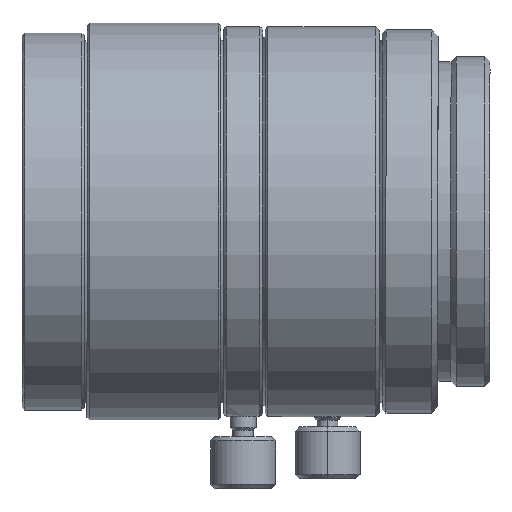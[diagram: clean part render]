
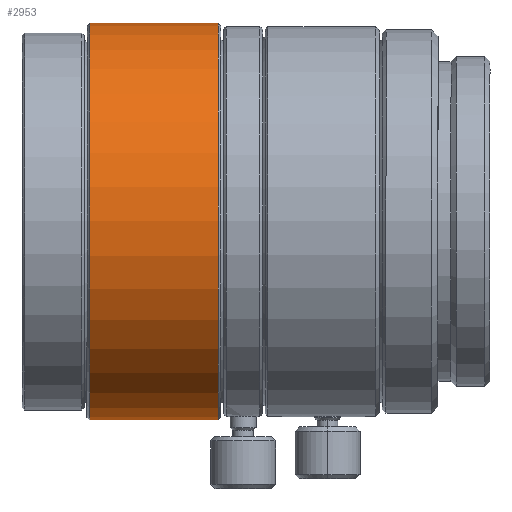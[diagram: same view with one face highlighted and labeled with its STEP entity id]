
A CAD part, top view. The second image highlights one B-rep face of the part: STEP entity #2953.
In plain terms, the highlighted cylindrical face has radius 15.25 mm (diameter 30.5 mm), a partial arc.
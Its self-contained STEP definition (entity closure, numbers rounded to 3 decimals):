
#67 = ORIENTED_EDGE ( 'NONE', *, *, #1200, .F. ) ;
#416 = DIRECTION ( 'NONE',  ( 1., 0., 0. ) ) ;
#559 = DIRECTION ( 'NONE',  ( 1., 0., 0. ) ) ;
#732 = CIRCLE ( 'NONE', #3233, 15.25 ) ;
#759 = CARTESIAN_POINT ( 'NONE',  ( -44.3, -15.25, 0. ) ) ;
#816 = CARTESIAN_POINT ( 'NONE',  ( -34.4, -15.25, 0. ) ) ;
#836 = LINE ( 'NONE', #4239, #2482 ) ;
#931 = VERTEX_POINT ( 'NONE', #816 ) ;
#1103 = EDGE_CURVE ( 'NONE', #3940, #4312, #3666, .T. ) ;
#1186 = EDGE_CURVE ( 'NONE', #3940, #2701, #836, .T. ) ;
#1200 = EDGE_CURVE ( 'NONE', #2701, #931, #732, .T. ) ;
#1203 = EDGE_LOOP ( 'NONE', ( #3415, #2263, #67, #2169 ) ) ;
#1556 = FACE_OUTER_BOUND ( 'NONE', #1203, .T. ) ;
#1715 = AXIS2_PLACEMENT_3D ( 'NONE', #2627, #2316, #2303 ) ;
#2169 = ORIENTED_EDGE ( 'NONE', *, *, #1186, .F. ) ;
#2263 = ORIENTED_EDGE ( 'NONE', *, *, #3674, .T. ) ;
#2303 = DIRECTION ( 'NONE',  ( 0., 1., 0. ) ) ;
#2316 = DIRECTION ( 'NONE',  ( 1., 0., 0. ) ) ;
#2345 = AXIS2_PLACEMENT_3D ( 'NONE', #2546, #559, #2870 ) ;
#2482 = VECTOR ( 'NONE', #4226, 1000. ) ;
#2538 = CARTESIAN_POINT ( 'NONE',  ( -44.3, 15.25, 0. ) ) ;
#2546 = CARTESIAN_POINT ( 'NONE',  ( 0., 0., 0. ) ) ;
#2627 = CARTESIAN_POINT ( 'NONE',  ( -44.3, 0., 0. ) ) ;
#2701 = VERTEX_POINT ( 'NONE', #3103 ) ;
#2870 = DIRECTION ( 'NONE',  ( 0., 1., 0. ) ) ;
#2953 = ADVANCED_FACE ( 'NONE', ( #1556 ), #4086, .T. ) ;
#3059 = DIRECTION ( 'NONE',  ( 0., 1., 0. ) ) ;
#3103 = CARTESIAN_POINT ( 'NONE',  ( -34.4, 15.25, 0. ) ) ;
#3130 = VECTOR ( 'NONE', #416, 1000. ) ;
#3227 = DIRECTION ( 'NONE',  ( 1., 0., 0. ) ) ;
#3233 = AXIS2_PLACEMENT_3D ( 'NONE', #3272, #3227, #3059 ) ;
#3272 = CARTESIAN_POINT ( 'NONE',  ( -34.4, 0., 0. ) ) ;
#3381 = CARTESIAN_POINT ( 'NONE',  ( 0., -15.25, 0. ) ) ;
#3415 = ORIENTED_EDGE ( 'NONE', *, *, #1103, .T. ) ;
#3666 = CIRCLE ( 'NONE', #1715, 15.25 ) ;
#3674 = EDGE_CURVE ( 'NONE', #4312, #931, #4021, .T. ) ;
#3940 = VERTEX_POINT ( 'NONE', #2538 ) ;
#4021 = LINE ( 'NONE', #3381, #3130 ) ;
#4086 = CYLINDRICAL_SURFACE ( 'NONE', #2345, 15.25 ) ;
#4226 = DIRECTION ( 'NONE',  ( 1., 0., 0. ) ) ;
#4239 = CARTESIAN_POINT ( 'NONE',  ( 0., 15.25, 0. ) ) ;
#4312 = VERTEX_POINT ( 'NONE', #759 ) ;
